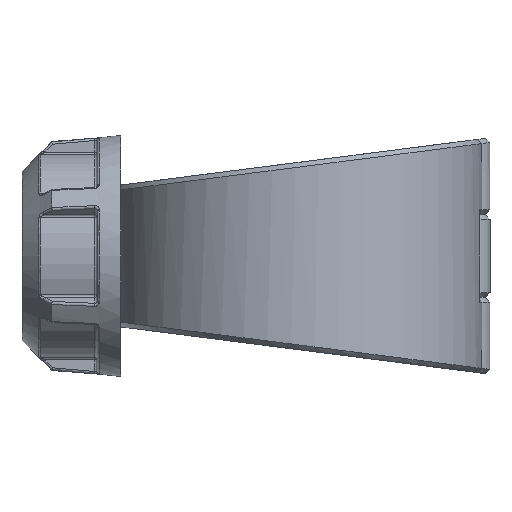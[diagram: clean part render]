
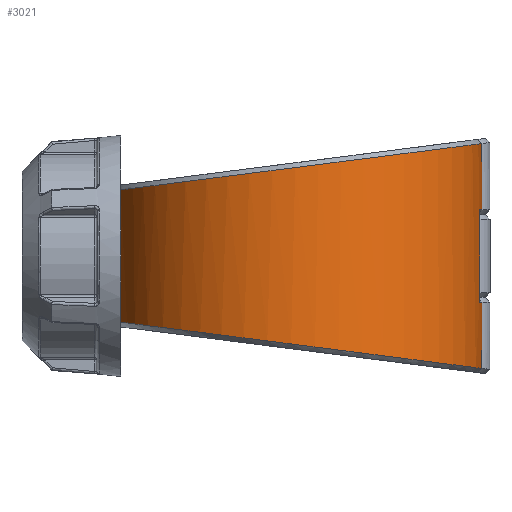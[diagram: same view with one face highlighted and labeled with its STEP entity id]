
A CAD part, left-side view. The second image highlights one B-rep face of the part: STEP entity #3021.
In plain terms, the highlighted cylindrical face has radius 78.5 mm (diameter 157 mm), a partial arc.
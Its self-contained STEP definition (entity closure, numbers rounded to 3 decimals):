
#212=FACE_OUTER_BOUND('',#416,.T.);
#416=EDGE_LOOP('',(#2055,#2056,#2057,#2058,#2059,#2060,#2061,#2062,#2063,
#2064,#2065,#2066));
#623=CIRCLE('',#3251,78.5);
#626=CIRCLE('',#3256,78.5);
#805=B_SPLINE_CURVE_WITH_KNOTS('',3,(#4512,#4513,#4514,#4515),
 .UNSPECIFIED.,.F.,.F.,(4,4),(-0.002,0.),.UNSPECIFIED.);
#806=B_SPLINE_CURVE_WITH_KNOTS('',3,(#4517,#4518,#4519,#4520),
 .UNSPECIFIED.,.F.,.F.,(4,4),(-3.042,-3.042),
 .UNSPECIFIED.);
#807=B_SPLINE_CURVE_WITH_KNOTS('',3,(#4521,#4522,#4523,#4524,#4525,#4526,
#4527,#4528,#4529,#4530),.UNSPECIFIED.,.F.,.F.,(4,1,1,1,1,1,1,4),(0.317,
0.63,1.034,1.438,1.842,2.246,
2.65,3.042),.UNSPECIFIED.);
#808=B_SPLINE_CURVE_WITH_KNOTS('',3,(#4532,#4533,#4534,#4535,#4536,#4537,
#4538,#4539,#4540,#4541),.UNSPECIFIED.,.F.,.F.,(4,1,1,1,1,1,1,4),(-3.042,
-2.65,-2.246,-1.842,-1.438,
-1.034,-0.63,-0.317),.UNSPECIFIED.);
#809=B_SPLINE_CURVE_WITH_KNOTS('',3,(#4543,#4544,#4545,#4546),
 .UNSPECIFIED.,.F.,.F.,(4,4),(3.042,3.042),
 .UNSPECIFIED.);
#810=B_SPLINE_CURVE_WITH_KNOTS('',3,(#4548,#4549,#4550,#4551),
 .UNSPECIFIED.,.F.,.F.,(4,4),(-0.391,-0.389),
 .UNSPECIFIED.);
#972=LINE('',#4391,#1093);
#979=LINE('',#4446,#1100);
#985=LINE('',#4510,#1106);
#986=LINE('',#4552,#1107);
#1093=VECTOR('',#3575,10.);
#1100=VECTOR('',#3592,10.);
#1106=VECTOR('',#3638,10.);
#1107=VECTOR('',#3639,10.);
#1216=VERTEX_POINT('',#4376);
#1217=VERTEX_POINT('',#4390);
#1229=VERTEX_POINT('',#4440);
#1230=VERTEX_POINT('',#4445);
#1236=VERTEX_POINT('',#4466);
#1239=VERTEX_POINT('',#4487);
#1243=VERTEX_POINT('',#4509);
#1244=VERTEX_POINT('',#4511);
#1245=VERTEX_POINT('',#4516);
#1246=VERTEX_POINT('',#4531);
#1247=VERTEX_POINT('',#4542);
#1248=VERTEX_POINT('',#4547);
#1510=EDGE_CURVE('',#1216,#1217,#972,.T.);
#1524=EDGE_CURVE('',#1229,#1230,#979,.T.);
#1537=EDGE_CURVE('',#1236,#1229,#623,.T.);
#1542=EDGE_CURVE('',#1230,#1239,#626,.T.);
#1548=EDGE_CURVE('',#1243,#1236,#985,.T.);
#1549=EDGE_CURVE('',#1244,#1243,#805,.T.);
#1550=EDGE_CURVE('',#1244,#1245,#806,.T.);
#1551=EDGE_CURVE('',#1217,#1245,#807,.T.);
#1552=EDGE_CURVE('',#1246,#1216,#808,.T.);
#1553=EDGE_CURVE('',#1246,#1247,#809,.T.);
#1554=EDGE_CURVE('',#1248,#1247,#810,.T.);
#1555=EDGE_CURVE('',#1239,#1248,#986,.T.);
#2055=ORIENTED_EDGE('',*,*,#1542,.F.);
#2056=ORIENTED_EDGE('',*,*,#1524,.F.);
#2057=ORIENTED_EDGE('',*,*,#1537,.F.);
#2058=ORIENTED_EDGE('',*,*,#1548,.F.);
#2059=ORIENTED_EDGE('',*,*,#1549,.F.);
#2060=ORIENTED_EDGE('',*,*,#1550,.T.);
#2061=ORIENTED_EDGE('',*,*,#1551,.F.);
#2062=ORIENTED_EDGE('',*,*,#1510,.F.);
#2063=ORIENTED_EDGE('',*,*,#1552,.F.);
#2064=ORIENTED_EDGE('',*,*,#1553,.T.);
#2065=ORIENTED_EDGE('',*,*,#1554,.F.);
#2066=ORIENTED_EDGE('',*,*,#1555,.F.);
#2962=CYLINDRICAL_SURFACE('',#3261,78.5);
#3021=ADVANCED_FACE('',(#212),#2962,.T.);
#3251=AXIS2_PLACEMENT_3D('',#4482,#3614,#3615);
#3256=AXIS2_PLACEMENT_3D('',#4496,#3624,#3625);
#3261=AXIS2_PLACEMENT_3D('',#4508,#3636,#3637);
#3575=DIRECTION('',(0.,0.,1.));
#3592=DIRECTION('',(0.,0.,-1.));
#3614=DIRECTION('center_axis',(0.,0.,-1.));
#3615=DIRECTION('ref_axis',(0.312,-0.95,0.));
#3624=DIRECTION('center_axis',(0.,0.,1.));
#3625=DIRECTION('ref_axis',(0.312,-0.95,0.));
#3636=DIRECTION('center_axis',(0.,0.,1.));
#3637=DIRECTION('ref_axis',(-0.312,0.95,0.));
#3638=DIRECTION('',(0.,0.,-1.));
#3639=DIRECTION('',(0.,0.,-1.));
#4376=CARTESIAN_POINT('',(-24.512,74.575,-27.998));
#4390=CARTESIAN_POINT('',(-24.512,74.575,27.998));
#4391=CARTESIAN_POINT('',(-24.512,74.575,0.));
#4440=CARTESIAN_POINT('',(-14.221,-77.201,19.5));
#4445=CARTESIAN_POINT('',(-14.221,-77.201,-19.5));
#4446=CARTESIAN_POINT('',(-14.221,-77.201,0.));
#4466=CARTESIAN_POINT('',(-7.767,-78.115,19.5));
#4482=CARTESIAN_POINT('Origin',(0.,0.,19.5));
#4487=CARTESIAN_POINT('',(-7.767,-78.115,-19.5));
#4496=CARTESIAN_POINT('Origin',(0.,0.,-19.5));
#4508=CARTESIAN_POINT('Origin',(0.,0.,0.));
#4509=CARTESIAN_POINT('',(-7.767,-78.115,47.539));
#4510=CARTESIAN_POINT('',(-7.767,-78.115,0.));
#4511=CARTESIAN_POINT('',(-7.754,-78.116,47.549));
#4512=CARTESIAN_POINT('Ctrl Pts',(-7.754,-78.116,47.549));
#4513=CARTESIAN_POINT('Ctrl Pts',(-7.758,-78.115,47.545));
#4514=CARTESIAN_POINT('Ctrl Pts',(-7.763,-78.115,47.542));
#4515=CARTESIAN_POINT('Ctrl Pts',(-7.767,-78.114,47.539));
#4516=CARTESIAN_POINT('',(-7.767,-78.115,47.549));
#4517=CARTESIAN_POINT('Ctrl Pts',(-7.754,-78.116,47.549));
#4518=CARTESIAN_POINT('Ctrl Pts',(-7.759,-78.116,47.549));
#4519=CARTESIAN_POINT('Ctrl Pts',(-7.763,-78.115,47.549));
#4520=CARTESIAN_POINT('Ctrl Pts',(-7.767,-78.115,47.549));
#4521=CARTESIAN_POINT('Ctrl Pts',(-24.511,74.572,27.999));
#4522=CARTESIAN_POINT('Ctrl Pts',(-32.319,72.002,28.327));
#4523=CARTESIAN_POINT('Ctrl Pts',(-49.273,63.309,29.436));
#4524=CARTESIAN_POINT('Ctrl Pts',(-69.438,41.08,32.276));
#4525=CARTESIAN_POINT('Ctrl Pts',(-79.986,10.445,36.194));
#4526=CARTESIAN_POINT('Ctrl Pts',(-77.658,-21.829,40.326));
#4527=CARTESIAN_POINT('Ctrl Pts',(-62.848,-50.55,44.009));
#4528=CARTESIAN_POINT('Ctrl Pts',(-38.227,-70.955,46.629));
#4529=CARTESIAN_POINT('Ctrl Pts',(-17.958,-77.1,47.418));
#4530=CARTESIAN_POINT('Ctrl Pts',(-7.767,-78.115,47.549));
#4531=CARTESIAN_POINT('',(-7.767,-78.115,-47.549));
#4532=CARTESIAN_POINT('Ctrl Pts',(-7.767,-78.115,-47.548));
#4533=CARTESIAN_POINT('Ctrl Pts',(-17.958,-77.1,-47.418));
#4534=CARTESIAN_POINT('Ctrl Pts',(-38.223,-70.951,-46.628));
#4535=CARTESIAN_POINT('Ctrl Pts',(-62.855,-50.555,-44.01));
#4536=CARTESIAN_POINT('Ctrl Pts',(-77.65,-21.826,-40.326));
#4537=CARTESIAN_POINT('Ctrl Pts',(-79.995,10.446,-36.193));
#4538=CARTESIAN_POINT('Ctrl Pts',(-69.43,41.077,-32.276));
#4539=CARTESIAN_POINT('Ctrl Pts',(-49.277,63.311,-29.436));
#4540=CARTESIAN_POINT('Ctrl Pts',(-32.32,72.002,-28.327));
#4541=CARTESIAN_POINT('Ctrl Pts',(-24.511,74.573,-27.999));
#4542=CARTESIAN_POINT('',(-7.754,-78.116,-47.549));
#4543=CARTESIAN_POINT('Ctrl Pts',(-7.767,-78.115,-47.548));
#4544=CARTESIAN_POINT('Ctrl Pts',(-7.763,-78.115,-47.549));
#4545=CARTESIAN_POINT('Ctrl Pts',(-7.759,-78.116,-47.549));
#4546=CARTESIAN_POINT('Ctrl Pts',(-7.754,-78.116,-47.549));
#4547=CARTESIAN_POINT('',(-7.767,-78.115,-47.539));
#4548=CARTESIAN_POINT('Ctrl Pts',(-7.767,-78.114,-47.539));
#4549=CARTESIAN_POINT('Ctrl Pts',(-7.763,-78.115,-47.542));
#4550=CARTESIAN_POINT('Ctrl Pts',(-7.758,-78.115,-47.545));
#4551=CARTESIAN_POINT('Ctrl Pts',(-7.754,-78.116,-47.549));
#4552=CARTESIAN_POINT('',(-7.767,-78.115,0.));
